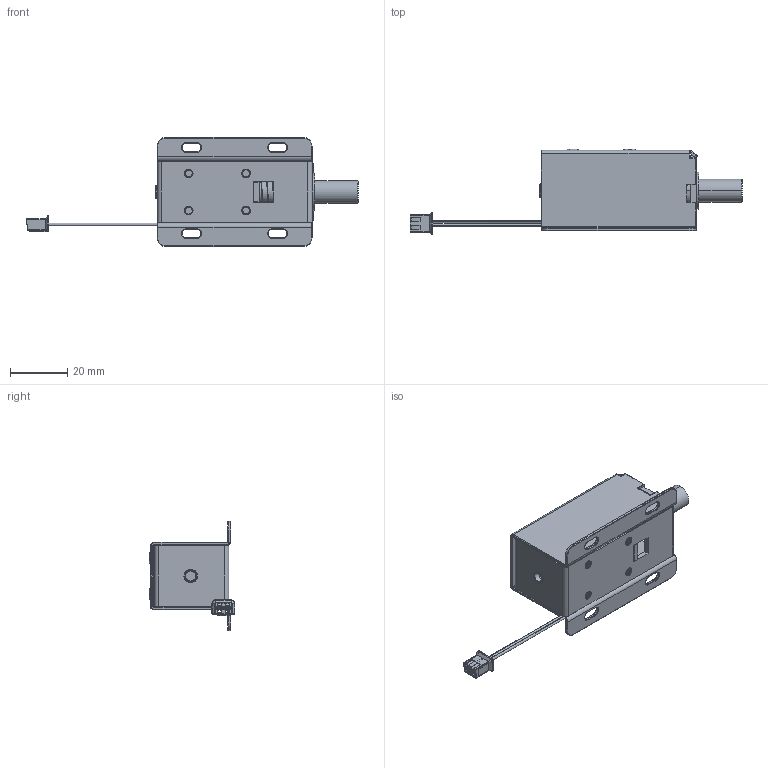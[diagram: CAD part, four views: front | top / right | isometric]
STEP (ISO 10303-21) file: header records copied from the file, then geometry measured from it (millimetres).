
FILE_DESCRIPTION((''),'2;1');
FILE_NAME('LY01A0_ASM','2024-11-18T10:04:27',('PRIME'),(''),'CREO PARAMETRIC BY PTC INC, 2023073','CREO PARAMETRIC BY PTC INC, 2023073','');
FILE_SCHEMA(('CONFIG_CONTROL_DESIGN','SHAPE_APPEARANCE_LAYERS_GROUPS'));
Length unit declared in the file: millimetre
Products named in the file (9): _LY-01A00; _LY01A00; _LY01A000; 0001; LY01A0_ASM
Assembly tree (9 placements, depth 2):
  LY01A0_ASM
    _LY-01A00
    _LY01A00
    _LY01A00
    _LY01A00
    _LY01A000
    _LY01A00  x2
    _LY01A00
    0001
Bounding box: 115.7 x 29.93 x 38 mm (x, y, z)
Volume: 13144.2 mm3; surface area: 19848.6 mm2
Topology: 9 solids, 9 shells, 721 faces, 1773 edges, 1073 vertices
Faces by surface type: cylinder 298, plane 210, torus 94, bspline 82, cone 16, sphere 16, revolution 4, extrusion 1
Entity records: 36469 total; most frequent: CARTESIAN_POINT 14010, DIRECTION 3263, ORIENTED_EDGE 3226, PRESENTATION_STYLE_ASSIGNMENT 1645, STYLED_ITEM 1645, EDGE_CURVE 1613, AXIS2_PLACEMENT_3D 1258, CURVE_STYLE 1163
